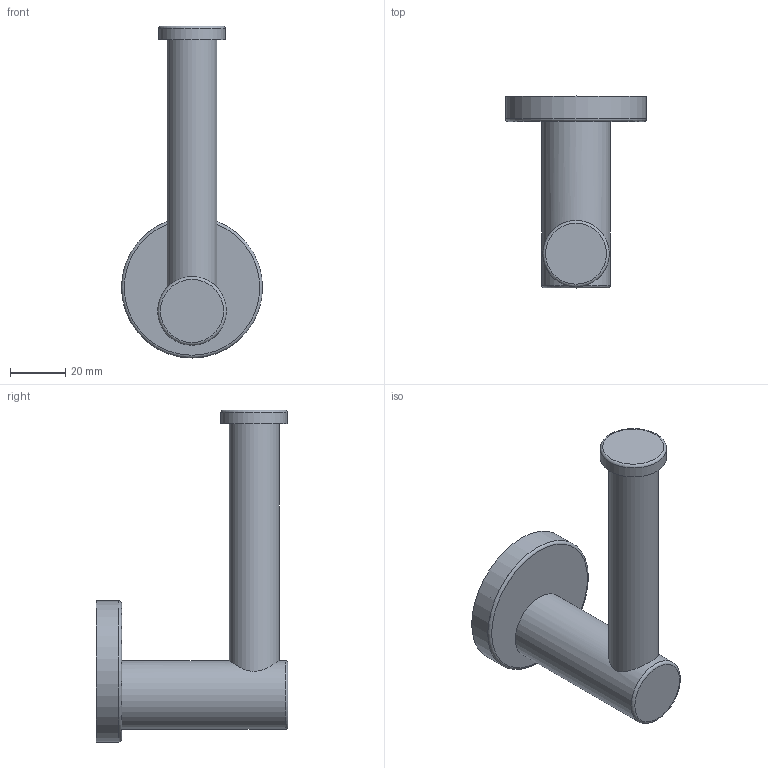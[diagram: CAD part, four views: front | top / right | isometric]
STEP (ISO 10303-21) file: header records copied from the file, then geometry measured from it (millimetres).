
FILE_DESCRIPTION(/* description */ (''),/* implementation_level */ '2;1');
FILE_NAME(/* name */ '4111163',/* time_stamp */ '2019-08-26T09:14:18+08:00',/* author */ (''),/* organization */ (''),/* preprocessor_version */ 'ST-DEVELOPER v9',/* originating_system */ 'UGS - NX 4.0',/* authorisation */ '');
FILE_SCHEMA (('CONFIG_CONTROL_DESIGN'));
Length unit declared in the file: millimetre
Products named in the file (1): w335DEEtk2m
Bounding box: 51 x 69.3 x 119.97 mm (x, y, z)
Volume: 52009.4 mm3; surface area: 26893.5 mm2
Topology: 3 solids, 4 shells, 77 faces, 185 edges, 119 vertices
Faces by surface type: plane 41, cylinder 28, torus 4, cone 4
Full cylindrical faces by diameter (mm): 18 x2, 18.8 x2, 24 x1, 24.8 x2, 50 x1, 51 x1
Entity records: 2250 total; most frequent: DIRECTION 396, CARTESIAN_POINT 382, ORIENTED_EDGE 332, EDGE_CURVE 166, AXIS2_PLACEMENT_3D 153, VERTEX_POINT 113, EDGE_LOOP 101, LINE 90
